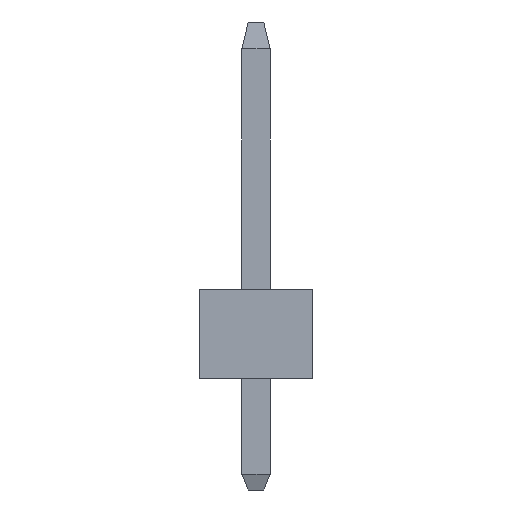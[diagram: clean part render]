
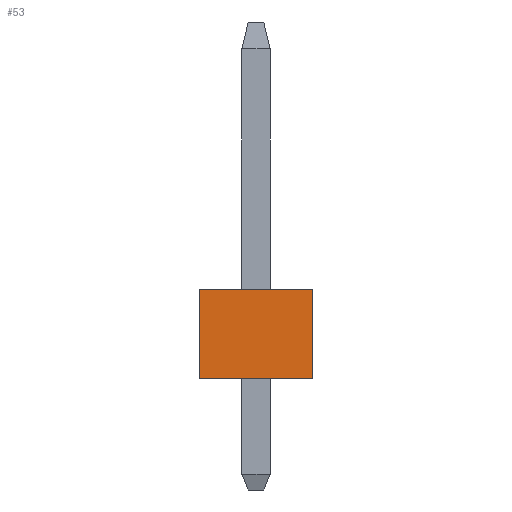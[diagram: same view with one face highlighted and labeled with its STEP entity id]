
A CAD part, left-side view. The second image highlights one B-rep face of the part: STEP entity #53.
In plain terms, the highlighted planar face has unit normal (-1, 0, 0).
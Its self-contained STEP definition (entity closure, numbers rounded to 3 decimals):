
#18 = CARTESIAN_POINT('',(-10.16,-1.27,0.));
#19 = VERTEX_POINT('',#18);
#20 = CARTESIAN_POINT('',(-10.16,-1.27,2.));
#21 = VERTEX_POINT('',#20);
#22 = CARTESIAN_POINT('',(-10.16,1.27,2.));
#23 = VERTEX_POINT('',#22);
#24 = CARTESIAN_POINT('',(-10.16,1.27,0.));
#25 = VERTEX_POINT('',#24);
#26 = DIRECTION('',(0.,0.,1.));
#27 = VECTOR('',#26,1.);
#28 = LINE('',#18,#27);
#29 = EDGE_CURVE('',#19,#21,#28,.T.);
#30 = ORIENTED_EDGE('',*,*,#29,.T.);
#31 = DIRECTION('',(0.,1.,0.));
#32 = VECTOR('',#31,1.);
#33 = LINE('',#20,#32);
#34 = EDGE_CURVE('',#21,#23,#33,.T.);
#35 = ORIENTED_EDGE('',*,*,#34,.T.);
#36 = DIRECTION('',(0.,0.,1.));
#37 = VECTOR('',#36,1.);
#38 = LINE('',#24,#37);
#39 = EDGE_CURVE('',#25,#23,#38,.T.);
#40 = ORIENTED_EDGE('',*,*,#39,.F.);
#41 = DIRECTION('',(0.,1.,0.));
#42 = VECTOR('',#41,1.);
#43 = LINE('',#18,#42);
#44 = EDGE_CURVE('',#19,#25,#43,.T.);
#45 = ORIENTED_EDGE('',*,*,#44,.F.);
#46 = CARTESIAN_POINT('',(-10.16,-1.27,0.));
#47 = DIRECTION('',(-1.,0.,0.));
#48 = DIRECTION('',(0.,0.,1.));
#49 = AXIS2_PLACEMENT_3D('',#46,#47,#48);
#50 = PLANE('',#49);
#51 = EDGE_LOOP('',(#30,#35,#40,#45));
#52 = FACE_OUTER_BOUND('',#51,.T.);
#53 = ADVANCED_FACE('',(#52),#50,.T.);
